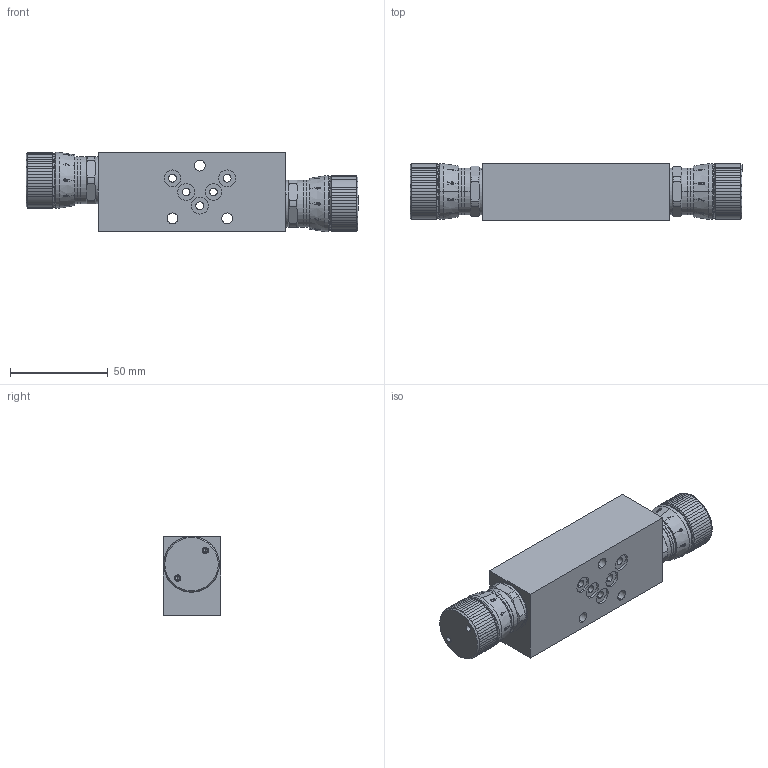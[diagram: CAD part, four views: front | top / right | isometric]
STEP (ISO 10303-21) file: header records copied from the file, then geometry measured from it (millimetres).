
FILE_DESCRIPTION (( 'STEP AP214' ), '1' );
FILE_NAME ('BDRPT4.STEP', '2017-04-10T12:49:30', ( '' ), ( '' ), 'SwSTEP 2.0', 'SolidWorks 2016', '' );
FILE_SCHEMA (( 'AUTOMOTIVE_DESIGN' ));
Length unit declared in the file: millimetre
Products named in the file (1): BDRPT4
Bounding box: 170 x 29.5 x 40.5 mm (x, y, z)
Volume: 150676.6 mm3; surface area: 27261.3 mm2
Topology: 1 solids, 3 shells, 1214 faces, 3318 edges, 2164 vertices
Faces by surface type: plane 730, cylinder 235, bspline 144, cone 95, torus 10
Entity records: 60246 total; most frequent: CARTESIAN_POINT 18797, ORIENTED_EDGE 6612, DIRECTION 4750, EDGE_CURVE 3306, VERTEX_POINT 2164, AXIS2_PLACEMENT_3D 1707, VECTOR 1336, LINE 1336
